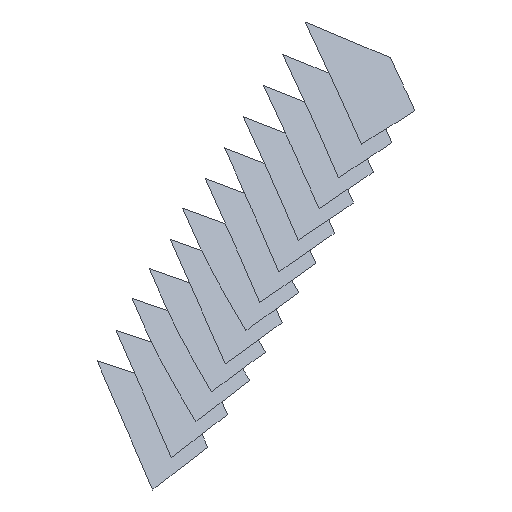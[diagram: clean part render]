
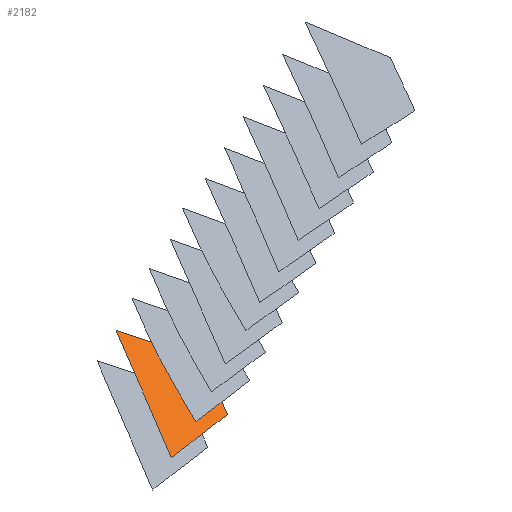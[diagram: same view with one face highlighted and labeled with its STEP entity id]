
A CAD part, front view. The second image highlights one B-rep face of the part: STEP entity #2182.
In plain terms, the highlighted free-form (B-spline) face has degree [1, 1] with [2, 2] control points.
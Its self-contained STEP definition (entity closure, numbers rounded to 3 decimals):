
#2182 = ADVANCED_FACE('',(#2183),#2196,.T.);
#2183 = FACE_BOUND('',#2184,.T.);
#2184 = EDGE_LOOP('',(#2185,#2206,#2220,#2234,#2248,#2262,#2276,#2290,
    #2304,#2318));
#2185 = ORIENTED_EDGE('',*,*,#2186,.T.);
#2186 = EDGE_CURVE('',#2187,#2189,#2191,.T.);
#2187 = VERTEX_POINT('',#2188);
#2188 = CARTESIAN_POINT('',(1094.775,-1786.937,
    1139.975));
#2189 = VERTEX_POINT('',#2190);
#2190 = CARTESIAN_POINT('',(1095.241,-1787.557,
    1138.912));
#2191 = SURFACE_CURVE('',#2192,(#2195),.PCURVE_S1.);
#2192 = B_SPLINE_CURVE_WITH_KNOTS('',1,(#2193,#2194),.UNSPECIFIED.,.F.,
  .F.,(2,2),(0.,1.316),.PIECEWISE_BEZIER_KNOTS.);
#2193 = CARTESIAN_POINT('',(1094.775,-1786.937,
    1139.975));
#2194 = CARTESIAN_POINT('',(1095.241,-1787.557,
    1138.912));
#2195 = PCURVE('',#2196,#2201);
#2196 = B_SPLINE_SURFACE_WITH_KNOTS('',1,1,(
    (#2197,#2198)
    ,(#2199,#2200
    )),.UNSPECIFIED.,.F.,.F.,.F.,(2,2),(2,2),(-5.244,
    3.377),(-3.635,3.968),
  .PIECEWISE_BEZIER_KNOTS.);
#2197 = CARTESIAN_POINT('',(1091.297,-1785.956,
    1143.236));
#2198 = CARTESIAN_POINT('',(1086.622,-1790.803,
    1139.707));
#2199 = CARTESIAN_POINT('',(1097.457,-1787.693,
    1137.461));
#2200 = CARTESIAN_POINT('',(1092.783,-1792.54,
    1133.932));
#2201 = DEFINITIONAL_REPRESENTATION('',(#2202),#2205);
#2202 = B_SPLINE_CURVE_WITH_KNOTS('',1,(#2203,#2204),.UNSPECIFIED.,.F.,
  .F.,(2,2),(0.,1.316),.PIECEWISE_BEZIER_KNOTS.);
#2203 = CARTESIAN_POINT('',(-0.376,-3.635));
#2204 = CARTESIAN_POINT('',(0.794,-3.032));
#2205 = ( GEOMETRIC_REPRESENTATION_CONTEXT(2) 
PARAMETRIC_REPRESENTATION_CONTEXT() REPRESENTATION_CONTEXT('2D SPACE',''
  ) );
#2206 = ORIENTED_EDGE('',*,*,#2207,.T.);
#2207 = EDGE_CURVE('',#2189,#2208,#2210,.T.);
#2208 = VERTEX_POINT('',#2209);
#2209 = CARTESIAN_POINT('',(1095.26,-1787.583,
    1138.868));
#2210 = SURFACE_CURVE('',#2211,(#2214),.PCURVE_S1.);
#2211 = B_SPLINE_CURVE_WITH_KNOTS('',1,(#2212,#2213),.UNSPECIFIED.,.F.,
  .F.,(2,2),(0.,0.055),.PIECEWISE_BEZIER_KNOTS.);
#2212 = CARTESIAN_POINT('',(1095.241,-1787.557,
    1138.912));
#2213 = CARTESIAN_POINT('',(1095.26,-1787.583,
    1138.868));
#2214 = PCURVE('',#2196,#2215);
#2215 = DEFINITIONAL_REPRESENTATION('',(#2216),#2219);
#2216 = B_SPLINE_CURVE_WITH_KNOTS('',1,(#2217,#2218),.UNSPECIFIED.,.F.,
  .F.,(2,2),(0.,0.055),.PIECEWISE_BEZIER_KNOTS.);
#2217 = CARTESIAN_POINT('',(0.794,-3.032));
#2218 = CARTESIAN_POINT('',(0.842,-3.007));
#2219 = ( GEOMETRIC_REPRESENTATION_CONTEXT(2) 
PARAMETRIC_REPRESENTATION_CONTEXT() REPRESENTATION_CONTEXT('2D SPACE',''
  ) );
#2220 = ORIENTED_EDGE('',*,*,#2221,.T.);
#2221 = EDGE_CURVE('',#2208,#2222,#2224,.T.);
#2222 = VERTEX_POINT('',#2223);
#2223 = CARTESIAN_POINT('',(1096.249,-1788.925,
    1136.576));
#2224 = SURFACE_CURVE('',#2225,(#2228),.PCURVE_S1.);
#2225 = B_SPLINE_CURVE_WITH_KNOTS('',1,(#2226,#2227),.UNSPECIFIED.,.F.,
  .F.,(2,2),(0.,2.834),.PIECEWISE_BEZIER_KNOTS.);
#2226 = CARTESIAN_POINT('',(1095.26,-1787.583,
    1138.868));
#2227 = CARTESIAN_POINT('',(1096.249,-1788.925,
    1136.576));
#2228 = PCURVE('',#2196,#2229);
#2229 = DEFINITIONAL_REPRESENTATION('',(#2230),#2233);
#2230 = B_SPLINE_CURVE_WITH_KNOTS('',1,(#2231,#2232),.UNSPECIFIED.,.F.,
  .F.,(2,2),(0.,2.834),.PIECEWISE_BEZIER_KNOTS.);
#2231 = CARTESIAN_POINT('',(0.842,-3.007));
#2232 = CARTESIAN_POINT('',(3.355,-1.696));
#2233 = ( GEOMETRIC_REPRESENTATION_CONTEXT(2) 
PARAMETRIC_REPRESENTATION_CONTEXT() REPRESENTATION_CONTEXT('2D SPACE',''
  ) );
#2234 = ORIENTED_EDGE('',*,*,#2235,.T.);
#2235 = EDGE_CURVE('',#2222,#2236,#2238,.T.);
#2236 = VERTEX_POINT('',#2237);
#2237 = CARTESIAN_POINT('',(1095.148,-1790.057,
    1135.756));
#2238 = SURFACE_CURVE('',#2239,(#2242),.PCURVE_S1.);
#2239 = B_SPLINE_CURVE_WITH_KNOTS('',1,(#2240,#2241),.UNSPECIFIED.,.F.,
  .F.,(2,2),(0.,1.78),.PIECEWISE_BEZIER_KNOTS.);
#2240 = CARTESIAN_POINT('',(1096.249,-1788.925,
    1136.576));
#2241 = CARTESIAN_POINT('',(1095.148,-1790.057,
    1135.756));
#2242 = PCURVE('',#2196,#2243);
#2243 = DEFINITIONAL_REPRESENTATION('',(#2244),#2247);
#2244 = B_SPLINE_CURVE_WITH_KNOTS('',1,(#2245,#2246),.UNSPECIFIED.,.F.,
  .F.,(2,2),(0.,1.78),.PIECEWISE_BEZIER_KNOTS.);
#2245 = CARTESIAN_POINT('',(3.355,-1.696));
#2246 = CARTESIAN_POINT('',(3.345,0.084));
#2247 = ( GEOMETRIC_REPRESENTATION_CONTEXT(2) 
PARAMETRIC_REPRESENTATION_CONTEXT() REPRESENTATION_CONTEXT('2D SPACE',''
  ) );
#2248 = ORIENTED_EDGE('',*,*,#2249,.T.);
#2249 = EDGE_CURVE('',#2236,#2250,#2252,.T.);
#2250 = VERTEX_POINT('',#2251);
#2251 = CARTESIAN_POINT('',(1093.931,-1791.341,
    1134.81));
#2252 = SURFACE_CURVE('',#2253,(#2256),.PCURVE_S1.);
#2253 = B_SPLINE_CURVE_WITH_KNOTS('',1,(#2254,#2255),.UNSPECIFIED.,.F.,
  .F.,(2,2),(0.,2.006),.PIECEWISE_BEZIER_KNOTS.);
#2254 = CARTESIAN_POINT('',(1095.148,-1790.057,
    1135.756));
#2255 = CARTESIAN_POINT('',(1093.931,-1791.341,
    1134.81));
#2256 = PCURVE('',#2196,#2257);
#2257 = DEFINITIONAL_REPRESENTATION('',(#2258),#2261);
#2258 = B_SPLINE_CURVE_WITH_KNOTS('',1,(#2259,#2260),.UNSPECIFIED.,.F.,
  .F.,(2,2),(0.,2.006),.PIECEWISE_BEZIER_KNOTS.);
#2259 = CARTESIAN_POINT('',(3.345,0.084));
#2260 = CARTESIAN_POINT('',(3.368,2.09));
#2261 = ( GEOMETRIC_REPRESENTATION_CONTEXT(2) 
PARAMETRIC_REPRESENTATION_CONTEXT() REPRESENTATION_CONTEXT('2D SPACE',''
  ) );
#2262 = ORIENTED_EDGE('',*,*,#2263,.T.);
#2263 = EDGE_CURVE('',#2250,#2264,#2266,.T.);
#2264 = VERTEX_POINT('',#2265);
#2265 = CARTESIAN_POINT('',(1092.783,-1792.54,
    1133.932));
#2266 = SURFACE_CURVE('',#2267,(#2270),.PCURVE_S1.);
#2267 = B_SPLINE_CURVE_WITH_KNOTS('',1,(#2268,#2269),.UNSPECIFIED.,.F.,
  .F.,(2,2),(0.,1.878),.PIECEWISE_BEZIER_KNOTS.);
#2268 = CARTESIAN_POINT('',(1093.931,-1791.341,
    1134.81));
#2269 = CARTESIAN_POINT('',(1092.783,-1792.54,
    1133.932));
#2270 = PCURVE('',#2196,#2271);
#2271 = DEFINITIONAL_REPRESENTATION('',(#2272),#2275);
#2272 = B_SPLINE_CURVE_WITH_KNOTS('',1,(#2273,#2274),.UNSPECIFIED.,.F.,
  .F.,(2,2),(0.,1.878),.PIECEWISE_BEZIER_KNOTS.);
#2273 = CARTESIAN_POINT('',(3.368,2.09));
#2274 = CARTESIAN_POINT('',(3.377,3.968));
#2275 = ( GEOMETRIC_REPRESENTATION_CONTEXT(2) 
PARAMETRIC_REPRESENTATION_CONTEXT() REPRESENTATION_CONTEXT('2D SPACE',''
  ) );
#2276 = ORIENTED_EDGE('',*,*,#2277,.T.);
#2277 = EDGE_CURVE('',#2264,#2278,#2280,.T.);
#2278 = VERTEX_POINT('',#2279);
#2279 = CARTESIAN_POINT('',(1090.872,-1789.948,
    1138.358));
#2280 = SURFACE_CURVE('',#2281,(#2284),.PCURVE_S1.);
#2281 = B_SPLINE_CURVE_WITH_KNOTS('',1,(#2282,#2283),.UNSPECIFIED.,.F.,
  .F.,(2,2),(0.,5.474),.PIECEWISE_BEZIER_KNOTS.);
#2282 = CARTESIAN_POINT('',(1092.783,-1792.54,
    1133.932));
#2283 = CARTESIAN_POINT('',(1090.872,-1789.948,
    1138.358));
#2284 = PCURVE('',#2196,#2285);
#2285 = DEFINITIONAL_REPRESENTATION('',(#2286),#2289);
#2286 = B_SPLINE_CURVE_WITH_KNOTS('',1,(#2287,#2288),.UNSPECIFIED.,.F.,
  .F.,(2,2),(0.,5.474),.PIECEWISE_BEZIER_KNOTS.);
#2287 = CARTESIAN_POINT('',(3.377,3.968));
#2288 = CARTESIAN_POINT('',(-1.476,1.436));
#2289 = ( GEOMETRIC_REPRESENTATION_CONTEXT(2) 
PARAMETRIC_REPRESENTATION_CONTEXT() REPRESENTATION_CONTEXT('2D SPACE',''
  ) );
#2290 = ORIENTED_EDGE('',*,*,#2291,.T.);
#2291 = EDGE_CURVE('',#2278,#2292,#2294,.T.);
#2292 = VERTEX_POINT('',#2293);
#2293 = CARTESIAN_POINT('',(1090.861,-1789.934,
    1138.381));
#2294 = SURFACE_CURVE('',#2295,(#2298),.PCURVE_S1.);
#2295 = B_SPLINE_CURVE_WITH_KNOTS('',1,(#2296,#2297),.UNSPECIFIED.,.F.,
  .F.,(2,2),(0.,0.029),.PIECEWISE_BEZIER_KNOTS.);
#2296 = CARTESIAN_POINT('',(1090.872,-1789.948,
    1138.358));
#2297 = CARTESIAN_POINT('',(1090.861,-1789.934,
    1138.381));
#2298 = PCURVE('',#2196,#2299);
#2299 = DEFINITIONAL_REPRESENTATION('',(#2300),#2303);
#2300 = B_SPLINE_CURVE_WITH_KNOTS('',1,(#2301,#2302),.UNSPECIFIED.,.F.,
  .F.,(2,2),(0.,0.029),.PIECEWISE_BEZIER_KNOTS.);
#2301 = CARTESIAN_POINT('',(-1.476,1.436));
#2302 = CARTESIAN_POINT('',(-1.501,1.423));
#2303 = ( GEOMETRIC_REPRESENTATION_CONTEXT(2) 
PARAMETRIC_REPRESENTATION_CONTEXT() REPRESENTATION_CONTEXT('2D SPACE',''
  ) );
#2304 = ORIENTED_EDGE('',*,*,#2305,.T.);
#2305 = EDGE_CURVE('',#2292,#2306,#2308,.T.);
#2306 = VERTEX_POINT('',#2307);
#2307 = CARTESIAN_POINT('',(1089.373,-1787.951,
    1141.783));
#2308 = SURFACE_CURVE('',#2309,(#2312),.PCURVE_S1.);
#2309 = B_SPLINE_CURVE_WITH_KNOTS('',1,(#2310,#2311),.UNSPECIFIED.,.F.,
  .F.,(2,2),(0.,4.21),.PIECEWISE_BEZIER_KNOTS.);
#2310 = CARTESIAN_POINT('',(1090.861,-1789.934,
    1138.381));
#2311 = CARTESIAN_POINT('',(1089.373,-1787.951,
    1141.783));
#2312 = PCURVE('',#2196,#2313);
#2313 = DEFINITIONAL_REPRESENTATION('',(#2314),#2317);
#2314 = B_SPLINE_CURVE_WITH_KNOTS('',1,(#2315,#2316),.UNSPECIFIED.,.F.,
  .F.,(2,2),(0.,4.21),.PIECEWISE_BEZIER_KNOTS.);
#2315 = CARTESIAN_POINT('',(-1.501,1.423));
#2316 = CARTESIAN_POINT('',(-5.244,-0.505));
#2317 = ( GEOMETRIC_REPRESENTATION_CONTEXT(2) 
PARAMETRIC_REPRESENTATION_CONTEXT() REPRESENTATION_CONTEXT('2D SPACE',''
  ) );
#2318 = ORIENTED_EDGE('',*,*,#2319,.T.);
#2319 = EDGE_CURVE('',#2306,#2187,#2320,.T.);
#2320 = SURFACE_CURVE('',#2321,(#2324),.PCURVE_S1.);
#2321 = B_SPLINE_CURVE_WITH_KNOTS('',1,(#2322,#2323),.UNSPECIFIED.,.F.,
  .F.,(2,2),(0.,5.787),.PIECEWISE_BEZIER_KNOTS.);
#2322 = CARTESIAN_POINT('',(1089.373,-1787.951,
    1141.783));
#2323 = CARTESIAN_POINT('',(1094.775,-1786.937,
    1139.975));
#2324 = PCURVE('',#2196,#2325);
#2325 = DEFINITIONAL_REPRESENTATION('',(#2326),#2329);
#2326 = B_SPLINE_CURVE_WITH_KNOTS('',1,(#2327,#2328),.UNSPECIFIED.,.F.,
  .F.,(2,2),(0.,5.787),.PIECEWISE_BEZIER_KNOTS.);
#2327 = CARTESIAN_POINT('',(-5.244,-0.505));
#2328 = CARTESIAN_POINT('',(-0.376,-3.635));
#2329 = ( GEOMETRIC_REPRESENTATION_CONTEXT(2) 
PARAMETRIC_REPRESENTATION_CONTEXT() REPRESENTATION_CONTEXT('2D SPACE',''
  ) );
